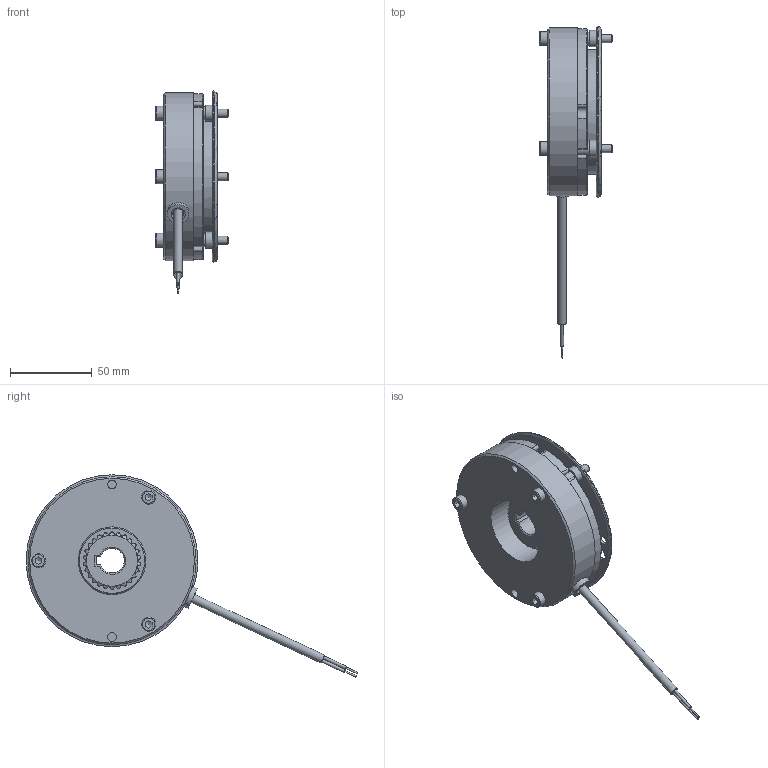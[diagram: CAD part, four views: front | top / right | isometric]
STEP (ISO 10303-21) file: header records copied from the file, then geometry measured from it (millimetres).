
FILE_DESCRIPTION(/* description */ (''),/* implementation_level */ '2;1');
FILE_NAME(/* name */ 'H:\Konstruktion\07 CAD - DATEN Standard für Kunden\BFK557\08\5030279_IPT_BFK557-08_RB_d15H7.stp',/* time_stamp */ '2022-03-16T09:41:50+01:00',/* author */ ('QuadfaselW'),/* organization */ (''),/* preprocessor_version */ 'ST-DEVELOPER v17',/* originating_system */ 'Autodesk Inventor 2018',/* authorisation */ '');
FILE_SCHEMA (('AUTOMOTIVE_DESIGN { 1 0 10303 214 3 1 1 }'));
Length unit declared in the file: millimetre
Products named in the file (1): 5030279
Bounding box: 45 x 203.47 x 124.14 mm (x, y, z)
Volume: 219846.6 mm3; surface area: 68637.4 mm2
Topology: 1 solids, 1 shells, 575 faces, 1951 edges, 1301 vertices
Faces by surface type: cylinder 276, plane 186, bspline 53, cone 32, torus 28
Full cylindrical faces by diameter (mm): 1 x2, 1.85 x2, 5 x3, 5.15 x3, 5.3 x6, 5.5 x7, 6.6 x1, 6.7 x1, 7 x1, 7.188 x3, 8 x3, 8.4 x3, 8.5 x3, 10 x3, 13.2 x1, 40 x1, 41.5 x2, 45 x1, 76.5 x1, 103 x1
Entity records: 26604 total; most frequent: CARTESIAN_POINT 9070, ORIENTED_EDGE 3898, DIRECTION 3317, EDGE_CURVE 1949, VERTEX_POINT 1301, AXIS2_PLACEMENT_3D 1294, CIRCLE 771, LINE 729
